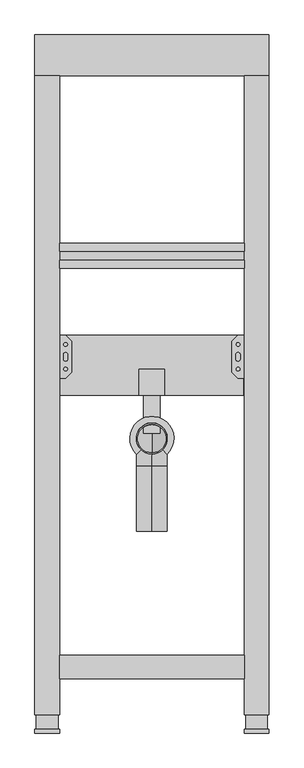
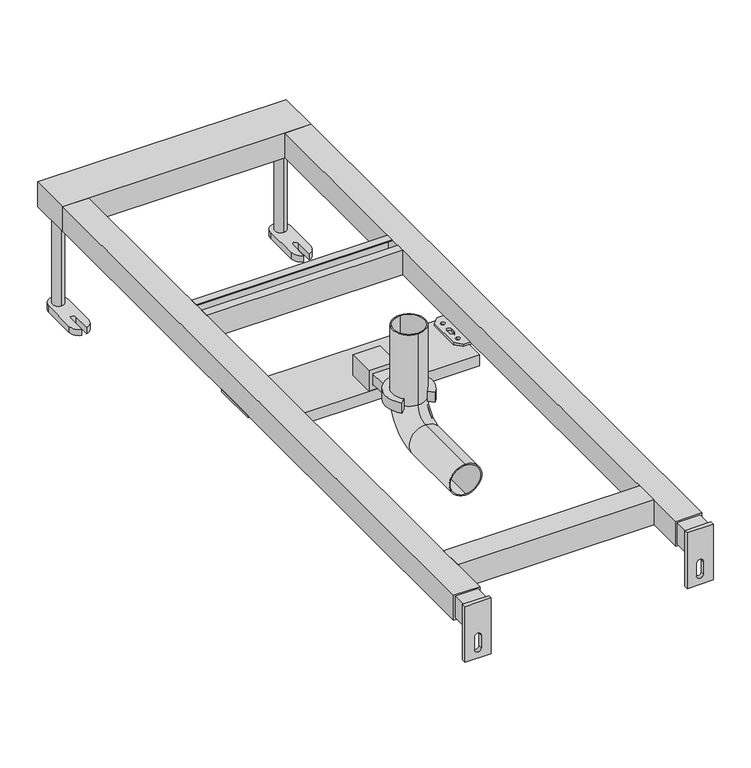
"""IFC4 building model written with IfcOpenShell, lengths in millimetres: flow terminal geometry, LIV-FIX WT FX : LIV-FIX WT FX."""

from ifc_helpers import new_model, si_unit, point, frame, frame_2d, origin, origin_with_axes, place, context, project, spatial, polyline, circle_curve, ellipse_curve, trimmed, segment, composite_curve, outline, extrude, source, transform, mapped, element, save
from ifc_brep_helpers import plane_surface, cylinder_surface, revolved_surface, advanced_brep


def flow_terminal_91b14c10(model_context):
    return source(origin(), model_context, "Body", "SolidModel", [
        extrude(outline(polyline([(754.0, 200.0), (766.4845167, 200.0), (766.4845167, 198.5), (755.5, 198.5), (755.5, 161.5), (792.5, 161.5), (792.5, 198.5), (781.5154833, 198.5), (781.5154833, 200.0), (794.0, 200.0), (794.0, 160.0), (754.0, 160.0), (754.0, 200.0)])), frame((-150.0, 0.0, 0.0), z_axis=(1.0, 0.0, 0.0), x_axis=(0.0, 1.0, 0.0)), (0.0, 0.0, 1.0), 300.0),
        advanced_brep(
        [(0.0, 327.5540201, 114.9756331), (0.0, 327.5540201, 164.9756331), (0.0, 327.5540201, 116.9756331), (0.0, 327.5540201, 162.9756331), (0.0, 432.5540201, 114.9756331), (0.0, 432.5540201, 164.9756331), (0.0, 502.5540201, 299.9756331), (0.0, 452.5540201, 299.9756331), (0.0, 500.5540201, 299.9756331), (0.0, 454.5540201, 299.9756331), (0.0, 452.5540201, 184.9756331), (0.0, 502.5540201, 184.9756331), (0.0, 432.5540201, 116.9756331), (0.0, 432.5540201, 162.9756331), (0.0, 454.5540201, 184.9756331), (0.0, 500.5540201, 184.9756331)],
        [
            (0, 1, circle_curve(frame((0.0, 327.5540201, 139.9756331), z_axis=(0.0, -1.0, 0.0), x_axis=(0.0, 0.0, 1.0)), 25.0)),
            (1, 0, circle_curve(frame((0.0, 327.5540201, 139.9756331), z_axis=(0.0, -1.0, 0.0), x_axis=(0.0, 0.0, 1.0)), 25.0)),
            (2, 3, circle_curve(frame((0.0, 327.5540201, 139.9756331), z_axis=(0.0, 1.0, 0.0), x_axis=(0.0, 0.0, 1.0)), 23.0)),
            (3, 2, circle_curve(frame((0.0, 327.5540201, 139.9756331), z_axis=(0.0, 1.0, 0.0), x_axis=(0.0, 0.0, 1.0)), 23.0)),
            (0, 4),
            (4, 5, circle_curve(frame((0.0, 432.5540201, 139.9756331), z_axis=(0.0, -1.0, 0.0), x_axis=(0.0, 0.0, 1.0)), 25.0)),
            (5, 1),
            (5, 4, circle_curve(frame((0.0, 432.5540201, 139.9756331), z_axis=(0.0, -1.0, 0.0), x_axis=(0.0, 0.0, 1.0)), 25.0)),
            (6, 7, circle_curve(frame((0.0, 477.5540201, 299.9756331), z_axis=(0.0, 0.0, 1.0), x_axis=(0.0, -1.0, 0.0)), 25.0)),
            (7, 6, circle_curve(frame((0.0, 477.5540201, 299.9756331), z_axis=(0.0, 0.0, 1.0), x_axis=(0.0, -1.0, 0.0)), 25.0)),
            (8, 9, circle_curve(frame((0.0, 477.5540201, 299.9756331), z_axis=(0.0, 0.0, -1.0), x_axis=(0.0, -1.0, 0.0)), 23.0)),
            (9, 8, circle_curve(frame((0.0, 477.5540201, 299.9756331), z_axis=(0.0, 0.0, -1.0), x_axis=(0.0, -1.0, 0.0)), 23.0)),
            (10, 11, circle_curve(frame((0.0, 477.5540201, 184.9756331), z_axis=(0.0, 0.0, 1.0), x_axis=(0.0, -1.0, 0.0)), 25.0)),
            (11, 6),
            (7, 10),
            (11, 10, circle_curve(frame((0.0, 477.5540201, 184.9756331), z_axis=(0.0, 0.0, 1.0), x_axis=(0.0, -1.0, 0.0)), 25.0)),
            (10, 5, circle_curve(frame((0.0, 432.5540201, 184.9756331), z_axis=(-1.0, 0.0, 0.0), x_axis=(0.0, 0.0, -1.0)), 20.0)),
            (4, 11, circle_curve(frame((0.0, 432.5540201, 184.9756331), z_axis=(1.0, 0.0, 0.0), x_axis=(0.0, 0.0, -1.0)), 70.0)),
            (2, 12),
            (12, 13, circle_curve(frame((0.0, 432.5540201, 139.9756331), z_axis=(0.0, 1.0, 0.0), x_axis=(0.0, 0.0, 1.0)), 23.0)),
            (13, 3),
            (13, 12, circle_curve(frame((0.0, 432.5540201, 139.9756331), z_axis=(0.0, 1.0, 0.0), x_axis=(0.0, 0.0, 1.0)), 23.0)),
            (14, 13, circle_curve(frame((0.0, 432.5540201, 184.9756331), z_axis=(-1.0, 0.0, 0.0), x_axis=(0.0, 0.0, -1.0)), 22.0)),
            (12, 15, circle_curve(frame((0.0, 432.5540201, 184.9756331), z_axis=(1.0, 0.0, 0.0), x_axis=(0.0, 0.0, -1.0)), 68.0)),
            (15, 14, circle_curve(frame((0.0, 477.5540201, 184.9756331), z_axis=(0.0, 0.0, 1.0), x_axis=(0.0, -1.0, 0.0)), 23.0)),
            (14, 15, circle_curve(frame((0.0, 477.5540201, 184.9756331), z_axis=(0.0, 0.0, 1.0), x_axis=(0.0, -1.0, 0.0)), 23.0)),
            (15, 8),
            (9, 14),
        ],
        [
            plane_surface(frame((0.0, 327.5540201, 139.9756331), z_axis=(0.0, -1.0, 0.0), x_axis=(1.0, 0.0, 0.0))),
            cylinder_surface(frame((0.0, 327.5540201, 139.9756331), z_axis=(0.0, -1.0, 0.0), x_axis=(0.0, 0.0, 1.0)), 25.0),
            plane_surface(frame((0.0, 477.5540201, 299.9756331), z_axis=(0.0, 0.0, 1.0), x_axis=(1.0, 0.0, 0.0))),
            cylinder_surface(frame((0.0, 477.5540201, 184.9756331), z_axis=(0.0, 0.0, -1.0), x_axis=(0.0, -1.0, 0.0)), 25.0),
            revolved_surface(trimmed(ellipse_curve(frame((0.0, 432.5540201, 139.9756331), z_axis=(0.0, -1.0, 0.0), x_axis=(0.0, 0.0, 1.0)), 25.0, 25.0), [point((0.0, 432.5540201, 114.9756331))], [point((0.0, 432.5540201, 164.9756331))], True, "CARTESIAN"), (0.0, 432.5540201, 184.9756331), (1.0, 0.0, 0.0)),
            revolved_surface(trimmed(ellipse_curve(frame((0.0, 432.5540201, 139.9756331), z_axis=(0.0, -1.0, 0.0), x_axis=(0.0, 0.0, 1.0)), 25.0, 25.0), [point((0.0, 432.5540201, 164.9756331))], [point((0.0, 432.5540201, 114.9756331))], True, "CARTESIAN"), (0.0, 432.5540201, 184.9756331), (1.0, 0.0, 0.0)),
            revolved_surface(polyline([(0.0, 432.5540201, 162.9756331), (0.0, 327.5540201, 162.9756331)]), (0.0, 327.5540201, 139.9756331), (0.0, 1.0, 0.0)),
            revolved_surface(trimmed(ellipse_curve(frame((0.0, 432.5540201, 139.9756331), z_axis=(0.0, 1.0, 0.0), x_axis=(0.0, 0.0, 1.0)), 23.0, 23.0), [point((0.0, 432.5540201, 116.9756331))], [point((0.0, 432.5540201, 162.9756331))], True, "CARTESIAN"), (0.0, 432.5540201, 184.9756331), (1.0, 0.0, 0.0)),
            revolved_surface(trimmed(ellipse_curve(frame((0.0, 432.5540201, 139.9756331), z_axis=(0.0, 1.0, 0.0), x_axis=(0.0, 0.0, 1.0)), 23.0, 23.0), [point((0.0, 432.5540201, 162.9756331))], [point((0.0, 432.5540201, 116.9756331))], True, "CARTESIAN"), (0.0, 432.5540201, 184.9756331), (1.0, 0.0, 0.0)),
            revolved_surface(polyline([(0.0, 454.5540201, 299.9756331), (0.0, 454.5540201, 184.9756331)]), (0.0, 477.5540201, 184.9756331), (0.0, 0.0, 1.0)),
        ],
        [
            (0, [[1, 2], [3, 4]]),
            (1, [[-1, 5, 6, 7]]),
            (1, [[-2, -7, 8, -5]]),
            (2, [[9, 10], [11, 12]]),
            (3, [[13, 14, -10, 15]]),
            (3, [[16, -15, -9, -14]]),
            (4, [[17, -6, 18, -13]]),
            (5, [[-18, -8, -17, -16]]),
            (6, [[-3, 19, 20, 21]]),
            (6, [[-4, -21, 22, -19]]),
            (7, [[23, -20, 24, 25]]),
            (8, [[-24, -22, -23, 26]]),
            (9, [[-25, 27, -12, 28]]),
            (9, [[-26, -28, -11, -27]]),
        ],
    ),
        extrude(outline(polyline([(149.0, 548.2), (-149.0, 548.2), (-149.0, 645.2), (149.0, 645.2), (149.0, 548.2)])), frame((0.0, 0.0, 138.0), z_axis=(0.0, 0.0, 1.0), x_axis=(1.0, 0.0, 0.0)), (0.0, 0.0, 1.0), 18.0),
        extrude(outline(polyline([(140.0, 575.2), (130.0, 585.2), (130.0, 635.2), (140.0, 645.2), (190.0, 645.2), (190.0, 575.2), (140.0, 575.2)]), holes=[composite_curve([segment(trimmed(circle_curve(frame_2d((175.0, 610.2)), 4.5), [point((175.0, 605.7))], [point((175.0, 614.7))], True, "CARTESIAN"), True, "CONTINUOUS"), segment(trimmed(circle_curve(frame_2d((175.0, 610.2)), 4.5), [point((175.0, 614.7))], [point((175.0, 605.7))], True, "CARTESIAN"), True, "CONTINUOUS")], self_intersect=False), composite_curve([segment(trimmed(circle_curve(frame_2d((175.0, 630.2)), 4.5), [point((175.0, 625.7))], [point((175.0, 634.7))], True, "CARTESIAN"), True, "CONTINUOUS"), segment(trimmed(circle_curve(frame_2d((175.0, 630.2)), 4.5), [point((175.0, 634.7))], [point((175.0, 625.7))], True, "CARTESIAN"), True, "CONTINUOUS")], self_intersect=False), composite_curve([segment(trimmed(circle_curve(frame_2d((175.0, 590.2)), 4.5), [point((175.0, 585.7))], [point((175.0, 594.7))], True, "CARTESIAN"), True, "CONTINUOUS"), segment(trimmed(circle_curve(frame_2d((175.0, 590.2)), 4.5), [point((175.0, 594.7))], [point((175.0, 585.7))], True, "CARTESIAN"), True, "CONTINUOUS")], self_intersect=False), composite_curve([segment(trimmed(circle_curve(frame_2d((140.0, 630.2)), 2.9795218), [point((140.0, 627.2204782))], [point((140.0, 633.1795218))], True, "CARTESIAN"), True, "CONTINUOUS"), segment(trimmed(circle_curve(frame_2d((140.0, 630.2)), 2.9795218), [point((140.0, 633.1795218))], [point((140.0, 627.2204782))], True, "CARTESIAN"), True, "CONTINUOUS")], self_intersect=False), composite_curve([segment(trimmed(circle_curve(frame_2d((140.0, 590.2)), 2.9795218), [point((140.0, 587.2204782))], [point((140.0, 593.1795218))], True, "CARTESIAN"), True, "CONTINUOUS"), segment(trimmed(circle_curve(frame_2d((140.0, 590.2)), 2.9795218), [point((140.0, 593.1795218))], [point((140.0, 587.2204782))], True, "CARTESIAN"), True, "CONTINUOUS")], self_intersect=False), composite_curve([segment(trimmed(circle_curve(frame_2d((140.0, 613.7)), 3.5), [point((143.5, 613.7))], [point((136.5, 613.7))], True, "CARTESIAN"), True, "CONTINUOUS"), segment(polyline([(136.5, 613.7), (136.5, 606.7)]), True, "CONTINUOUS"), segment(trimmed(circle_curve(frame_2d((140.0, 606.7)), 3.5), [point((136.5, 606.7))], [point((143.5, 606.7))], True, "CARTESIAN"), True, "CONTINUOUS"), segment(polyline([(143.5, 606.7), (143.5, 613.7)]), True, "CONTINUOUS")], self_intersect=False)]), frame((0.0, 0.0, 156.0), z_axis=(0.0, 0.0, 1.0), x_axis=(1.0, 0.0, 0.0)), (0.0, 0.0, 1.0), 4.0),
        extrude(outline(polyline([(-140.0, 575.2), (-190.0, 575.2), (-190.0, 645.2), (-140.0, 645.2), (-130.0, 635.2), (-130.0, 585.2), (-140.0, 575.2)]), holes=[composite_curve([segment(trimmed(circle_curve(frame_2d((-175.0, 610.2)), 4.5), [point((-175.0, 605.7))], [point((-175.0, 614.7))], True, "CARTESIAN"), True, "CONTINUOUS"), segment(trimmed(circle_curve(frame_2d((-175.0, 610.2)), 4.5), [point((-175.0, 614.7))], [point((-175.0, 605.7))], True, "CARTESIAN"), True, "CONTINUOUS")], self_intersect=False), composite_curve([segment(trimmed(circle_curve(frame_2d((-175.0, 630.2)), 4.5), [point((-175.0, 625.7))], [point((-175.0, 634.7))], True, "CARTESIAN"), True, "CONTINUOUS"), segment(trimmed(circle_curve(frame_2d((-175.0, 630.2)), 4.5), [point((-175.0, 634.7))], [point((-175.0, 625.7))], True, "CARTESIAN"), True, "CONTINUOUS")], self_intersect=False), composite_curve([segment(trimmed(circle_curve(frame_2d((-175.0, 590.2)), 4.5), [point((-175.0, 585.7))], [point((-175.0, 594.7))], True, "CARTESIAN"), True, "CONTINUOUS"), segment(trimmed(circle_curve(frame_2d((-175.0, 590.2)), 4.5), [point((-175.0, 594.7))], [point((-175.0, 585.7))], True, "CARTESIAN"), True, "CONTINUOUS")], self_intersect=False), composite_curve([segment(trimmed(circle_curve(frame_2d((-140.0, 630.2)), 2.9795218), [point((-140.0, 627.2204782))], [point((-140.0, 633.1795218))], True, "CARTESIAN"), True, "CONTINUOUS"), segment(trimmed(circle_curve(frame_2d((-140.0, 630.2)), 2.9795218), [point((-140.0, 633.1795218))], [point((-140.0, 627.2204782))], True, "CARTESIAN"), True, "CONTINUOUS")], self_intersect=False), composite_curve([segment(trimmed(circle_curve(frame_2d((-140.0, 590.2)), 2.9795218), [point((-140.0, 587.2204782))], [point((-140.0, 593.1795218))], True, "CARTESIAN"), True, "CONTINUOUS"), segment(trimmed(circle_curve(frame_2d((-140.0, 590.2)), 2.9795218), [point((-140.0, 593.1795218))], [point((-140.0, 587.2204782))], True, "CARTESIAN"), True, "CONTINUOUS")], self_intersect=False), composite_curve([segment(polyline([(-143.5, 613.7), (-143.5, 606.7)]), True, "CONTINUOUS"), segment(trimmed(circle_curve(frame_2d((-140.0, 606.7)), 3.5), [point((-143.5, 606.7))], [point((-136.5, 606.7))], True, "CARTESIAN"), True, "CONTINUOUS"), segment(polyline([(-136.5, 606.7), (-136.5, 613.7)]), True, "CONTINUOUS"), segment(trimmed(circle_curve(frame_2d((-140.0, 613.7)), 3.5), [point((-136.5, 613.7))], [point((-143.5, 613.7))], True, "CARTESIAN"), True, "CONTINUOUS")], self_intersect=False)]), frame((0.0, 0.0, 156.0), z_axis=(0.0, 0.0, 1.0), x_axis=(1.0, 0.0, 0.0)), (0.0, 0.0, 1.0), 4.0),
        extrude(outline(composite_curve([segment(trimmed(circle_curve(frame_2d((-170.0, 1112.1)), 8.75), [point((-170.0, 1103.35))], [point((-170.0, 1120.85))], False, "CARTESIAN"), True, "CONTINUOUS"), segment(trimmed(circle_curve(frame_2d((-170.0, 1112.1)), 8.75), [point((-170.0, 1120.85))], [point((-170.0, 1103.35))], False, "CARTESIAN"), True, "CONTINUOUS")], self_intersect=False)), frame((0.0, 0.0, 10.0), z_axis=(0.0, 0.0, 1.0), x_axis=(1.0, 0.0, 0.0)), (0.0, 0.0, 1.0), 150.0),
        extrude(outline(composite_curve([segment(trimmed(circle_curve(frame_2d((170.0, 1112.1)), 8.75), [point((170.0, 1103.35))], [point((170.0, 1120.85))], False, "CARTESIAN"), True, "CONTINUOUS"), segment(trimmed(circle_curve(frame_2d((170.0, 1112.1)), 8.75), [point((170.0, 1120.85))], [point((170.0, 1103.35))], False, "CARTESIAN"), True, "CONTINUOUS")], self_intersect=False)), frame((0.0, 0.0, 10.0), z_axis=(0.0, 0.0, 1.0), x_axis=(1.0, 0.0, 0.0)), (0.0, 0.0, 1.0), 150.0),
        extrude(outline(composite_curve([segment(trimmed(circle_curve(frame_2d((-170.0, 1112.1)), 15.0), [point((-185.0, 1112.1))], [point((-155.0, 1112.1))], False, "CARTESIAN"), True, "CONTINUOUS"), segment(polyline([(-155.0, 1112.1), (-155.0, 1058.1)]), True, "CONTINUOUS"), segment(trimmed(circle_curve(frame_2d((-170.0, 1058.1)), 15.0), [point((-155.0, 1058.1))], [point((-166.0, 1043.6431677))], False, "CARTESIAN"), True, "CONTINUOUS"), segment(polyline([(-166.0, 1043.6431677), (-166.0, 1072.5568323)]), True, "CONTINUOUS"), segment(trimmed(circle_curve(frame_2d((-170.0, 1072.5568323)), 4.0), [point((-166.0, 1072.5568323))], [point((-174.0, 1072.5568323))], True, "CARTESIAN"), True, "CONTINUOUS"), segment(polyline([(-174.0, 1072.5568323), (-174.0, 1043.6431677)]), True, "CONTINUOUS"), segment(trimmed(circle_curve(frame_2d((-170.0, 1058.1)), 15.0), [point((-174.0, 1043.6431677))], [point((-185.0, 1058.1))], False, "CARTESIAN"), True, "CONTINUOUS"), segment(polyline([(-185.0, 1058.1), (-185.0, 1112.1)]), True, "CONTINUOUS")], self_intersect=False)), origin_with_axes(), (0.0, 0.0, 1.0), 10.0),
        extrude(outline(composite_curve([segment(polyline([(185.0, 1112.1), (185.0, 1058.1)]), True, "CONTINUOUS"), segment(trimmed(circle_curve(frame_2d((170.0, 1058.1)), 15.0), [point((185.0, 1058.1))], [point((174.0, 1043.6431677))], False, "CARTESIAN"), True, "CONTINUOUS"), segment(polyline([(174.0, 1043.6431677), (174.0, 1072.5568323)]), True, "CONTINUOUS"), segment(trimmed(circle_curve(frame_2d((170.0, 1072.5568323)), 4.0), [point((174.0, 1072.5568323))], [point((166.0, 1072.5568323))], True, "CARTESIAN"), True, "CONTINUOUS"), segment(polyline([(166.0, 1072.5568323), (166.0, 1043.6431677)]), True, "CONTINUOUS"), segment(trimmed(circle_curve(frame_2d((170.0, 1058.1)), 15.0), [point((166.0, 1043.6431677))], [point((155.0, 1058.1))], False, "CARTESIAN"), True, "CONTINUOUS"), segment(polyline([(155.0, 1058.1), (155.0, 1112.1)]), True, "CONTINUOUS"), segment(trimmed(circle_curve(frame_2d((170.0, 1112.1)), 15.0), [point((155.0, 1112.1))], [point((185.0, 1112.1))], False, "CARTESIAN"), True, "CONTINUOUS")], self_intersect=False)), origin_with_axes(), (0.0, 0.0, 1.0), 10.0),
        extrude(outline(polyline([(-187.5, 549.0), (-152.5, 549.0), (-152.5, 6.0), (-187.5, 6.0), (-187.5, 549.0)])), frame((0.0, 0.0, 162.5), z_axis=(0.0, 0.0, 1.0), x_axis=(1.0, 0.0, 0.0)), (0.0, 0.0, 1.0), 35.0),
        extrude(outline(polyline([(152.4841074, 549.0), (187.4841074, 549.0), (187.4841074, 6.0), (152.4841074, 6.0), (152.4841074, 549.0)])), frame((0.0, 0.0, 162.5), z_axis=(0.0, 0.0, 1.0), x_axis=(1.0, 0.0, 0.0)), (0.0, 0.0, 1.0), 35.0),
        extrude(outline(polyline([(200.0, 190.0), (200.0, 150.0), (110.0, 150.0), (110.0, 190.0), (200.0, 190.0)]), holes=[composite_curve([segment(trimmed(circle_curve(frame_2d((145.0, 170.0)), 5.0), [point((145.0, 165.0))], [point((145.0, 175.0))], True, "CARTESIAN"), True, "CONTINUOUS"), segment(polyline([(145.0, 175.0), (125.0, 175.0)]), True, "CONTINUOUS"), segment(trimmed(circle_curve(frame_2d((125.0, 170.0)), 5.0), [point((125.0, 175.0))], [point((125.0, 165.0))], True, "CARTESIAN"), True, "CONTINUOUS"), segment(polyline([(125.0, 165.0), (145.0, 165.0)]), True, "CONTINUOUS")], self_intersect=False)]), frame((0.0, 0.0, 0.0), z_axis=(0.0, 1.0, 0.0), x_axis=(0.0, 0.0, 1.0)), (0.0, 0.0, 1.0), 6.0),
        extrude(outline(polyline([(200.0, -150.0), (200.0, -190.0), (110.0, -190.0), (110.0, -150.0), (200.0, -150.0)]), holes=[composite_curve([segment(trimmed(circle_curve(frame_2d((145.0, -170.0)), 5.0), [point((145.0, -175.0))], [point((145.0, -165.0))], True, "CARTESIAN"), True, "CONTINUOUS"), segment(polyline([(145.0, -165.0), (125.0, -165.0)]), True, "CONTINUOUS"), segment(trimmed(circle_curve(frame_2d((125.0, -170.0)), 5.0), [point((125.0, -165.0))], [point((125.0, -175.0))], True, "CARTESIAN"), True, "CONTINUOUS"), segment(polyline([(125.0, -175.0), (145.0, -175.0)]), True, "CONTINUOUS")], self_intersect=False)]), frame((0.0, 0.0, 0.0), z_axis=(0.0, 1.0, 0.0), x_axis=(0.0, 0.0, 1.0)), (0.0, 0.0, 1.0), 6.0),
        extrude(outline(polyline([(150.0, 125.9014478), (150.0, 87.9572582), (-150.0, 87.9572582), (-150.0, 125.9014478), (150.0, 125.9014478)])), frame((0.0, 0.0, 160.0), z_axis=(0.0, 0.0, 1.0), x_axis=(1.0, 0.0, 0.0)), (0.0, 0.0, 1.0), 40.0),
        extrude(outline(polyline([(-150.0, 30.0), (-190.0, 30.0), (-190.0, 1066.0399206), (-150.0, 1066.0399206), (-150.0, 30.0)])), frame((0.0, 0.0, 160.0), z_axis=(0.0, 0.0, 1.0), x_axis=(1.0, 0.0, 0.0)), (0.0, 0.0, 1.0), 40.0),
        extrude(outline(polyline([(190.0, 30.0), (150.0, 30.0), (150.0, 1066.0399206), (190.0, 1066.0399206), (190.0, 30.0)])), frame((0.0, 0.0, 160.0), z_axis=(0.0, 0.0, 1.0), x_axis=(1.0, 0.0, 0.0)), (0.0, 0.0, 1.0), 40.0),
        extrude(outline(polyline([(190.0, 1132.1), (190.0, 1066.0399206), (-190.0, 1066.0399206), (-190.0, 1132.1), (190.0, 1132.1)])), frame((0.0, 0.0, 160.0), z_axis=(0.0, 0.0, 1.0), x_axis=(1.0, 0.0, 0.0)), (0.0, 0.0, 1.0), 40.0),
        extrude(outline(composite_curve([segment(polyline([(-17.8270587, 459.1188677), (-24.8992187, 452.0467077)]), True, "CONTINUOUS"), segment(trimmed(circle_curve(frame_2d((0.0, 477.7)), 35.75), [point((-24.8992187, 452.0467077))], [point((24.8992187, 452.0467077))], False, "CARTESIAN"), True, "CONTINUOUS"), segment(polyline([(24.8992187, 452.0467077), (17.8270587, 459.1188677)]), True, "CONTINUOUS"), segment(trimmed(circle_curve(frame_2d((0.0, 477.7)), 25.75), [point((17.8270587, 459.1188677))], [point((-17.8270587, 459.1188677))], True, "CARTESIAN"), True, "CONTINUOUS")], self_intersect=False)), frame((0.0, 0.0, 180.75), z_axis=(0.0, 0.0, 1.0), x_axis=(1.0, 0.0, 0.0)), (0.0, 0.0, 1.0), 16.25),
        extrude(outline(polyline([(-13.5, 590.2), (13.5, 590.2), (13.5, 485.9552373), (-13.5, 485.9552373), (-13.5, 590.2)])), frame((0.0, 0.0, 164.75), z_axis=(0.0, 0.0, 1.0), x_axis=(1.0, 0.0, 0.0)), (0.0, 0.0, 1.0), 16.0),
        extrude(outline(polyline([(189.5, 20.9285173), (189.5, -20.5714827), (156.0, -20.5714827), (156.0, 20.9285173), (189.5, 20.9285173)]), holes=[polyline([(182.0, 13.75), (163.5, 13.75), (163.5, -13.75), (182.0, -13.75), (182.0, 13.75)])]), frame((0.0, 548.2, 0.0), z_axis=(0.0, 1.0, 0.0), x_axis=(0.0, 0.0, 1.0)), (0.0, 0.0, 1.0), 42.0),
    ])


if __name__ == "__main__":
    model = new_model("IFC4")
    model_context = context("Model", 3, world=origin())
    ifc_project = project(units=[si_unit("LENGTHUNIT", "METRE", prefix="MILLI")], contexts=[model_context])
    site = spatial("IfcSite", under=ifc_project)
    building = spatial("IfcBuilding", under=site)
    placement = place(None, origin())
    flow_terminal_shape = flow_terminal_91b14c10(model_context)
    element("IfcFlowTerminal", 1, ObjectType="LIV-FIX WT FX : LIV-FIX WT FX", at=placement, inside=building, context=model_context, shape_type="MappedRepresentation", body=[
        mapped(flow_terminal_shape, transform((0.0, 0.0, 0.0), x_axis=(1.0, 0.0, 0.0), y_axis=(0.0, 1.0, 0.0), z_axis=(0.0, 0.0, 1.0))),
    ])
    save(model, "model.ifc")
